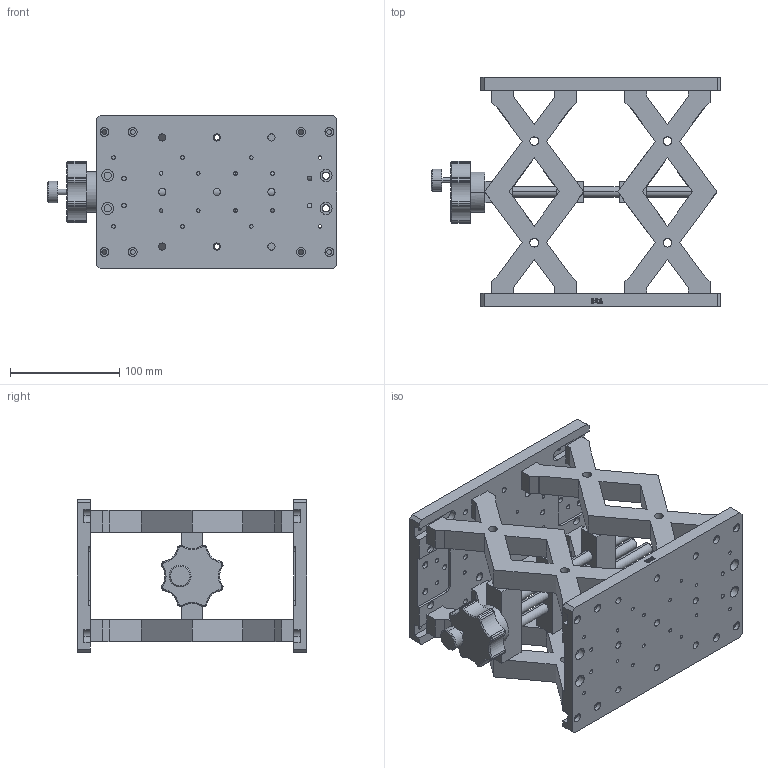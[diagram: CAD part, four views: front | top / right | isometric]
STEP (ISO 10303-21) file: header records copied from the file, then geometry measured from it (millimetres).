
FILE_DESCRIPTION (( 'STEP AP203' ), '1' );
FILE_NAME ('PT - SD409.STEP', '2022-08-20T05:20:31', ( '' ), ( '' ), 'SwSTEP 2.0', 'SolidWorks 2017', '' );
FILE_SCHEMA (( 'CONFIG_CONTROL_DESIGN' ));
Length unit declared in the file: millimetre
Products named in the file (4): PT - SD409; 汔蔥啣; 菁啣; PT-SD409
Assembly tree (3 placements, depth 2):
  PT - SD409
    PT-SD409
    菁啣
    汔蔥啣
Bounding box: 265.5 x 210 x 140 mm (x, y, z)
Volume: 1474448.6 mm3; surface area: 329204.5 mm2
Topology: 3 solids, 3 shells, 996 faces, 2729 edges, 1794 vertices
Faces by surface type: plane 528, cylinder 347, bspline 84, cone 37
Entity records: 35959 total; most frequent: CARTESIAN_POINT 9721, ORIENTED_EDGE 5458, DIRECTION 5137, EDGE_CURVE 2729, LINE 1821, VECTOR 1821, VERTEX_POINT 1794, AXIS2_PLACEMENT_3D 1658
